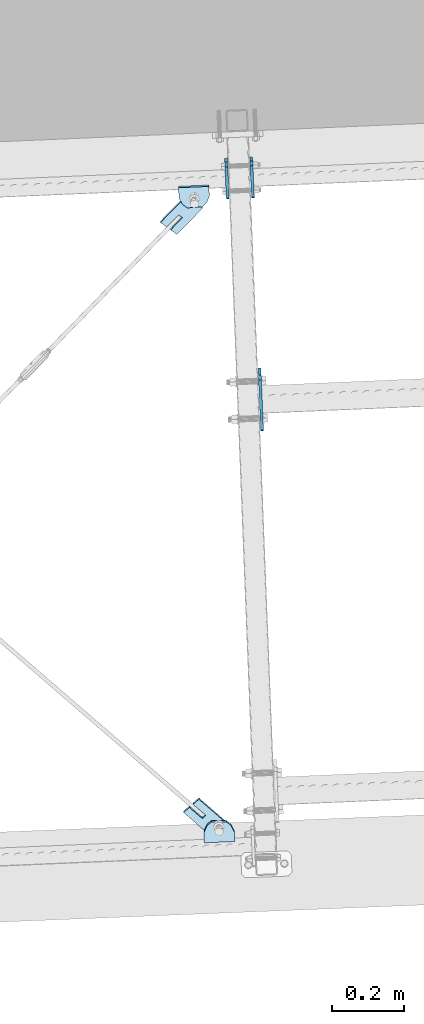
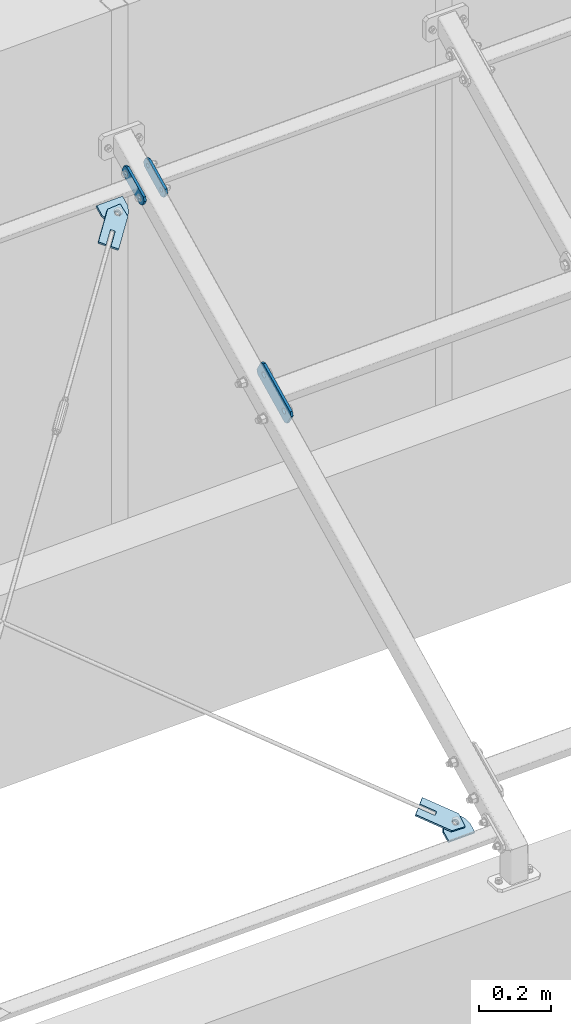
# One storey, part 65 of 288: 7 plates, 34 openings.
"""IFC2X3 building model written with IfcOpenShell, lengths in millimetres."""

import ifcopenshell
import ifcopenshell.guid

model = None  # the IFC model being written
_history = None  # IfcOwnerHistory: only IFC2X3 demands one
_inside = {}  # id of a spatial element -> (the spatial element, [elements in it])
_under = {}  # id of a project, library or spatial element -> (it, [spatial elements below it])
_declared = {}  # id of a project -> (the project, [libraries it declares])
_typed = {}  # id of a type object -> (the type object, [elements of that type])
_made_of = {}  # id of a material, layer set ... -> (it, [elements and type objects made of it])


def new_model(schema):
    """Start an empty IFC model of exactly this schema.

    Asked for "IFC4X3", IfcOpenShell would pick the latest addendum, in which some entities
    have other attributes; the version numbers below select the first issue.
    IFC2X3 requires an IfcOwnerHistory on every rooted entity: one is made here for all.
    """
    global model, _history
    if schema == "IFC4X3":
        model = ifcopenshell.file(schema_version=(4, 3, 0, 0))
    else:
        model = ifcopenshell.file(schema=schema)
    _inside.clear()
    _under.clear()
    _declared.clear()
    _typed.clear()
    _made_of.clear()
    _history = None
    if model.schema == "IFC2X3":
        org = make("IfcOrganization", Name="unknown")
        user = make(
            "IfcPersonAndOrganization",
            ThePerson=make("IfcPerson", FamilyName="unknown"),
            TheOrganization=org,
        )
        app = make(
            "IfcApplication",
            ApplicationDeveloper=org,
            Version="unknown",
            ApplicationFullName="unknown",
            ApplicationIdentifier="unknown",
        )
        _history = make(
            "IfcOwnerHistory",
            OwningUser=user,
            OwningApplication=app,
            ChangeAction="ADDED",
            CreationDate=0,
        )
    return model


def make(cls, **values):
    """One entity of the class cls with the attributes given. An attribute that is None is left unset."""
    return model.create_entity(
        cls, **{name: value for name, value in values.items() if value is not None}
    )


def entity(cls, *values):
    """Any entity or typed value of the class cls, its attributes in the order of the schema. None: left unset."""
    e = model.create_entity(cls)
    for i, value in enumerate(values):
        if value is not None:
            e[i] = value
    return e


def rooted(cls, **values):
    """An entity with a GlobalId (a new one), such as an element, a storey or a relation."""
    return make(cls, GlobalId=ifcopenshell.guid.new(), OwnerHistory=_history, **values)


def si_unit(unit_type, name, prefix=None):
    """IfcSIUnit, for example si_unit("LENGTHUNIT", "METRE", prefix="MILLI")."""
    return make("IfcSIUnit", UnitType=unit_type, Prefix=prefix, Name=name)


def converted_unit(unit_type, name, factor, base, dimensions=None, offset=None):
    """IfcConversionBasedUnit, such as the inch: factor (a typed value) times the base unit."""
    return make(
        "IfcConversionBasedUnit"
        if offset is None
        else "IfcConversionBasedUnitWithOffset",
        ConversionOffset=offset,
        Dimensions=None
        if dimensions is None
        else entity("IfcDimensionalExponents", *dimensions),
        UnitType=unit_type,
        Name=name,
        ConversionFactor=make(
            "IfcMeasureWithUnit", ValueComponent=factor, UnitComponent=base
        ),
    )


def assignment(units):
    """IfcUnitAssignment: the units of a project."""
    return None if units is None else make("IfcUnitAssignment", Units=units)


def point(xyz):
    """IfcCartesianPoint."""
    return None if xyz is None else make("IfcCartesianPoint", Coordinates=xyz)


def direction(xyz):
    """IfcDirection."""
    return None if xyz is None else make("IfcDirection", DirectionRatios=xyz)


def frame(location, z_axis=None, x_axis=None):
    """IfcAxis2Placement3D, a coordinate frame: its origin and axes. An axis left out is left unset."""
    return make(
        "IfcAxis2Placement3D",
        Location=point(location),
        Axis=direction(z_axis),
        RefDirection=direction(x_axis),
    )


def frame_2d(location, x_axis=None):
    """IfcAxis2Placement2D, a coordinate frame in the plane: its origin and x axis."""
    return make(
        "IfcAxis2Placement2D", Location=point(location), RefDirection=direction(x_axis)
    )


def origin():
    """The frame at (0, 0, 0) with its axes left unset."""
    return frame((0.0, 0.0, 0.0))


def origin_with_axes():
    """The frame at (0, 0, 0) with the z axis (0, 0, 1) and the x axis (1, 0, 0) written out."""
    return frame((0.0, 0.0, 0.0), z_axis=(0.0, 0.0, 1.0), x_axis=(1.0, 0.0, 0.0))


def origin_2d_with_axis():
    """The frame at (0, 0) in the plane with the x axis (1, 0) written out."""
    return frame_2d((0.0, 0.0), x_axis=(1.0, 0.0))


def place(relative_to, where):
    """IfcLocalPlacement: puts the frame where relative to a parent placement (None: the world)."""
    return make(
        "IfcLocalPlacement", PlacementRelTo=relative_to, RelativePlacement=where
    )


def context(
    kind, dimensions, precision=None, world=None, true_north=None, identifier=None
):
    """IfcGeometricRepresentationContext, for example the 3D "Model" context."""
    return make(
        "IfcGeometricRepresentationContext",
        ContextIdentifier=identifier,
        ContextType=kind,
        CoordinateSpaceDimension=dimensions,
        Precision=precision,
        WorldCoordinateSystem=world,
        TrueNorth=true_north,
    )


def project(units=None, contexts=None):
    """IfcProject with its units and contexts."""
    return rooted(
        "IfcProject",
        Name="project",
        RepresentationContexts=contexts,
        UnitsInContext=assignment(units),
    )


def spatial(cls, under=None, at=None, **own):
    """A site, building, storey or space (cls), placed at a placement, below another one or the project."""
    s = rooted(cls, ObjectPlacement=at, **own)
    if under is not None:
        _under.setdefault(under.id(), (under, []))[1].append(s)
    return s


def polyline(points):
    """IfcPolyline through the points."""
    return make("IfcPolyline", Points=[point(p) for p in points])


def circle_curve(where, radius):
    """IfcCircle in the frame where."""
    return make("IfcCircle", Position=where, Radius=radius)


def line_curve(start, along, magnitude):
    """IfcLine from a point along a vector."""
    return make(
        "IfcLine",
        Pnt=point(start),
        Dir=make("IfcVector", Orientation=direction(along), Magnitude=magnitude),
    )


def trimmed(basis, trim1, trim2, sense, master):
    """IfcTrimmedCurve: the piece of a basis curve between two trims."""
    return make(
        "IfcTrimmedCurve",
        BasisCurve=basis,
        Trim1=trim1,
        Trim2=trim2,
        SenseAgreement=sense,
        MasterRepresentation=master,
    )


def segment(curve, same_sense, transition):
    """IfcCompositeCurveSegment."""
    return make(
        "IfcCompositeCurveSegment",
        Transition=transition,
        SameSense=same_sense,
        ParentCurve=curve,
    )


def composite_curve(segments, self_intersect=None):
    """IfcCompositeCurve: segments joined end to end."""
    return make("IfcCompositeCurve", Segments=segments, SelfIntersect=self_intersect)


def profile(cls, at=None, kind="AREA", **sizes):
    """A parametric profile (cls). Its sizes go by their IFC names, for example OverallWidth=200.0."""
    return make(cls, ProfileType=kind, Position=at, **sizes)


def circle(**sizes):
    """IfcCircleProfileDef."""
    return profile("IfcCircleProfileDef", **sizes)


def outline(outer, holes=None, kind="AREA"):
    """IfcArbitraryClosedProfileDef: a profile drawn as a closed curve; with holes, ...WithVoids."""
    if holes is None:
        return make("IfcArbitraryClosedProfileDef", ProfileType=kind, OuterCurve=outer)
    return make(
        "IfcArbitraryProfileDefWithVoids",
        ProfileType=kind,
        OuterCurve=outer,
        InnerCurves=holes,
    )


def extrude(swept, where, along, depth):
    """IfcExtrudedAreaSolid: the profile swept, set in the frame where, extruded along a direction by depth."""
    return make(
        "IfcExtrudedAreaSolid",
        SweptArea=swept,
        Position=where,
        ExtrudedDirection=direction(along),
        Depth=depth,
    )


def shape(context_of_items, identifier, shape_type, items):
    """IfcShapeRepresentation: the items that make up one representation, for example the "Body"."""
    return make(
        "IfcShapeRepresentation",
        ContextOfItems=context_of_items,
        RepresentationIdentifier=identifier,
        RepresentationType=shape_type,
        Items=items,
    )


def material(Name=None, Category=None):
    """IfcMaterial."""
    return make("IfcMaterial", Name=Name, Category=Category)


def layer(
    of_material, thickness, ventilated=None, Name=None, Category=None, Priority=None
):
    """IfcMaterialLayer: one layer of a wall or slab, of a material (None: an air gap)."""
    return make(
        "IfcMaterialLayer",
        Material=of_material,
        LayerThickness=thickness,
        IsVentilated=ventilated,
        Name=Name,
        Category=Category,
        Priority=Priority,
    )


def layer_set(layers, Name=None):
    """IfcMaterialLayerSet."""
    return make("IfcMaterialLayerSet", MaterialLayers=layers, LayerSetName=Name)


def made_of(thing, what):
    """Note that an element or type object is made of a material, layer set ...; save() writes the relation."""
    if what is not None:
        _made_of.setdefault(what.id(), (what, []))[1].append(thing)
    return thing


def element(
    cls,
    number,
    at=None,
    inside=None,
    cuts=None,
    type_object=None,
    material=None,
    context=None,
    identifier="Body",
    shape_type=None,
    held_by="IfcProductDefinitionShape",
    body=None,
    shapes=None,
    **own,
):
    """One element of the class cls, such as IfcWall. Its Tag is "e" and its number.

    at: its placement. inside: the storey or other place that contains it. cuts: it is an
    opening in that element (IfcRelVoidsElement). A single representation is given by context,
    identifier, shape_type and body (its items); several are given by shapes. held_by: the class
    of the entity that holds the representations. save() writes the other relations.
    """
    e = rooted(cls, Tag="e%d" % number, ObjectPlacement=at, **own)
    if body is not None:
        shapes = [shape(context, identifier, shape_type, body)]
    if shapes is not None:
        e.Representation = make(held_by, Representations=shapes)
    if inside is not None:
        _inside.setdefault(inside.id(), (inside, []))[1].append(e)
    if cuts is not None:
        rooted(
            "IfcRelVoidsElement", RelatingBuildingElement=cuts, RelatedOpeningElement=e
        )
    if type_object is not None:
        _typed.setdefault(type_object.id(), (type_object, []))[1].append(e)
    return made_of(e, material)


def aggregate(whole, parts):
    """IfcRelAggregates: a whole, such as a stair, and the parts it consists of."""
    return rooted("IfcRelAggregates", RelatingObject=whole, RelatedObjects=parts)


def save(model, path):
    """Write the relations noted so far, then the file.

    IfcRelAggregates (storeys below a building ...), IfcRelContainedInSpatialStructure (elements
    in a storey), IfcRelDefinesByType, IfcRelAssociatesMaterial and IfcRelDeclares: one each for
    every whole, place, type object, material and project.
    """
    for whole, parts in _under.values():
        aggregate(whole, parts)
    for where, things in _inside.values():
        rooted(
            "IfcRelContainedInSpatialStructure",
            RelatedElements=things,
            RelatingStructure=where,
        )
    for kind, things in _typed.values():
        rooted("IfcRelDefinesByType", RelatedObjects=things, RelatingType=kind)
    for what, things in _made_of.values():
        rooted("IfcRelAssociatesMaterial", RelatedObjects=things, RelatingMaterial=what)
    for by, libraries in _declared.values():
        rooted("IfcRelDeclares", RelatingContext=by, RelatedDefinitions=libraries)
    model.write(path)


model = new_model("IFC2X3")

# Units and contexts
model_context = context("Model", 3, precision=1e-09, world=origin_with_axes())
ifc_project = project(units=[si_unit("LENGTHUNIT", "METRE", prefix="MILLI"), si_unit("AREAUNIT", "SQUARE_METRE"), si_unit("VOLUMEUNIT", "CUBIC_METRE"), converted_unit("PLANEANGLEUNIT", "DEGREE", entity("IfcPlaneAngleMeasure", 0.01745329), si_unit("PLANEANGLEUNIT", "RADIAN"), dimensions=[0, 0, 0, 0, 0, 0, 0])], contexts=[model_context])

# Site, building, storey
site_placement = place(None, origin_with_axes())
site = spatial("IfcSite", under=ifc_project, at=site_placement, Name="Remont ?wietlik?w nad MC w NCPP w Opolu", CompositionType="ELEMENT")
building_placement = place(site_placement, origin_with_axes())
building = spatial("IfcBuilding", under=site, at=building_placement, Name="Konstrukcja 1", CompositionType="ELEMENT")
storey_placement = place(building_placement, origin_with_axes())
storey = spatial("IfcBuildingStorey", under=building, at=storey_placement, Name="Default Storey", CompositionType="ELEMENT", Elevation=0.0)

# Plate, openings
ifc_material = material(Name="S235")
ifc_layer = layer(ifc_material, 8.0)
ifc_layer_set = layer_set([ifc_layer], Name="S235")
plate_1_placement = place(None, frame((8741.90455079, 15756.596347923, 1174.632161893), z_axis=(-0.999102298, -0.042361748, 0.000284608), x_axis=(0.021561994, -0.502733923, 0.864172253)))
plate_1 = element("IfcPlate", 1, at=plate_1_placement, inside=storey, material=ifc_layer_set, Name="-", ObjectType="-", context=model_context, shape_type="SweptSolid", body=[
    extrude(outline(polyline([(0.0, 0.0), (40.0, 0.0), (40.0, 120.0), (0.0, 120.0), (0.0, 0.0)])), origin_with_axes(), (0.0, 0.0, 1.0), 8.0),
])
opening_1_placement = place(plate_1_placement, frame((0.0, 0.0, -0.01), z_axis=(0.0, 0.0, 1.0), x_axis=(1.0, 0.0, 0.0)))
element("IfcOpeningElement", 2, at=opening_1_placement, cuts=plate_1, ObjectType="Opening", context=model_context, shape_type="SweptSolid", body=[
    extrude(outline(composite_curve([segment(trimmed(line_curve((0.0, 0.0), (1.0, 0.0), 10.0), [point((0.0, 0.0))], [point((10.0, 0.0))], True, "CARTESIAN"), True, "CONTINUOUS"), segment(trimmed(circle_curve(frame_2d((10.0, 10.0), x_axis=(-1.0, 0.0)), 10.0), [point((10.0, 0.0))], [point((0.0, 10.0))], False, "CARTESIAN"), True, "CONTINUOUS"), segment(trimmed(line_curve((0.0, 10.0), (0.0, -1.0), 10.0), [point((0.0, 10.0))], [point((0.0, 0.0))], True, "CARTESIAN"), True, "CONTINUOUS")], self_intersect=False)), origin(), (0.0, 0.0, 1.0), 8.02),
])
opening_2_placement = place(plate_1_placement, frame((0.0, 0.0, -0.01), z_axis=(0.0, 0.0, 1.0), x_axis=(1.0, 0.0, 0.0)))
element("IfcOpeningElement", 3, at=opening_2_placement, cuts=plate_1, ObjectType="Opening", context=model_context, shape_type="SweptSolid", body=[
    extrude(outline(composite_curve([segment(trimmed(line_curve((40.0, 0.0), (0.0, 1.0), 10.0), [point((40.0, 0.0))], [point((40.0, 10.0))], True, "CARTESIAN"), True, "CONTINUOUS"), segment(trimmed(circle_curve(frame_2d((30.0, 10.0), x_axis=(-1.0, 0.0)), 10.0), [point((40.0, 10.0))], [point((30.0, 0.0))], False, "CARTESIAN"), True, "CONTINUOUS"), segment(trimmed(line_curve((30.0, 0.0), (1.0, 0.0), 10.0), [point((30.0, 0.0))], [point((40.0, 0.0))], True, "CARTESIAN"), True, "CONTINUOUS")], self_intersect=False)), origin(), (0.0, 0.0, 1.0), 8.02),
])
opening_3_placement = place(plate_1_placement, frame((0.0, 0.0, -0.01), z_axis=(0.0, 0.0, 1.0), x_axis=(1.0, 0.0, 0.0)))
element("IfcOpeningElement", 4, at=opening_3_placement, cuts=plate_1, ObjectType="Opening", context=model_context, shape_type="SweptSolid", body=[
    extrude(outline(composite_curve([segment(trimmed(line_curve((40.0, 120.0), (-1.0, 0.0), 10.0), [point((40.0, 120.0))], [point((30.0, 120.0))], True, "CARTESIAN"), True, "CONTINUOUS"), segment(trimmed(circle_curve(frame_2d((30.0, 110.0), x_axis=(-1.0, 0.0)), 10.0), [point((30.0, 120.0))], [point((40.0, 110.0))], False, "CARTESIAN"), True, "CONTINUOUS"), segment(trimmed(line_curve((40.0, 110.0), (0.0, 1.0), 10.0), [point((40.0, 110.0))], [point((40.0, 120.0))], True, "CARTESIAN"), True, "CONTINUOUS")], self_intersect=False)), origin(), (0.0, 0.0, 1.0), 8.02),
])
opening_4_placement = place(plate_1_placement, frame((0.0, 0.0, -0.01), z_axis=(0.0, 0.0, 1.0), x_axis=(1.0, 0.0, 0.0)))
element("IfcOpeningElement", 5, at=opening_4_placement, cuts=plate_1, ObjectType="Opening", context=model_context, shape_type="SweptSolid", body=[
    extrude(outline(composite_curve([segment(trimmed(line_curve((0.0, 120.0), (0.0, -1.0), 10.0), [point((0.0, 120.0))], [point((0.0, 110.0))], True, "CARTESIAN"), True, "CONTINUOUS"), segment(trimmed(circle_curve(frame_2d((10.0, 110.0), x_axis=(-1.0, 0.0)), 10.0), [point((0.0, 110.0))], [point((10.0, 120.0))], False, "CARTESIAN"), True, "CONTINUOUS"), segment(trimmed(line_curve((10.0, 120.0), (-1.0, 0.0), 10.0), [point((10.0, 120.0))], [point((0.0, 120.0))], True, "CARTESIAN"), True, "CONTINUOUS")], self_intersect=False)), origin(), (0.0, 0.0, 1.0), 8.02),
])
opening_5_placement = place(plate_1_placement, frame((20.0, 60.0, -0.5), z_axis=(0.0, 0.0, 1.0), x_axis=(1.0, 0.0, 0.0)))
element("IfcOpeningElement", 6, at=opening_5_placement, cuts=plate_1, ObjectType="Opening", context=model_context, shape_type="SweptSolid", body=[
    extrude(circle(Radius=7.001, at=frame_2d((0.0, 40.0), x_axis=(1.0, 0.0))), origin(), (0.0, 0.0, 1.0), 9.0),
])
opening_6_placement = place(plate_1_placement, frame((20.0, 60.0, -0.5), z_axis=(0.0, 0.0, 1.0), x_axis=(1.0, 0.0, 0.0)))
element("IfcOpeningElement", 7, at=opening_6_placement, cuts=plate_1, ObjectType="Opening", context=model_context, shape_type="SweptSolid", body=[
    extrude(circle(Radius=7.001, at=frame_2d((0.0, -40.0), x_axis=(1.0, 0.0))), origin(), (0.0, 0.0, 1.0), 9.0),
])

plate_2_placement = place(None, frame((8671.967389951, 15753.631025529, 1174.65208444), z_axis=(-0.999102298, -0.042361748, 0.000284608), x_axis=(0.021561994, -0.502733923, 0.864172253)))
plate_2 = element("IfcPlate", 8, at=plate_2_placement, inside=storey, material=ifc_layer_set, Name="-", ObjectType="-", context=model_context, shape_type="SweptSolid", body=[
    extrude(outline(polyline([(0.0, 0.0), (40.0, 0.0), (40.0, 120.0), (0.0, 120.0), (0.0, 0.0)])), origin_with_axes(), (0.0, 0.0, 1.0), 8.0),
])
opening_7_placement = place(plate_2_placement, frame((0.0, 0.0, -0.01), z_axis=(0.0, 0.0, 1.0), x_axis=(1.0, 0.0, 0.0)))
element("IfcOpeningElement", 9, at=opening_7_placement, cuts=plate_2, ObjectType="Opening", context=model_context, shape_type="SweptSolid", body=[
    extrude(outline(composite_curve([segment(trimmed(line_curve((40.0, 0.0), (0.0, 1.0), 10.0), [point((40.0, 0.0))], [point((40.0, 10.0))], True, "CARTESIAN"), True, "CONTINUOUS"), segment(trimmed(circle_curve(frame_2d((30.0, 10.0), x_axis=(-1.0, 0.0)), 10.0), [point((40.0, 10.0))], [point((30.0, 0.0))], False, "CARTESIAN"), True, "CONTINUOUS"), segment(trimmed(line_curve((30.0, 0.0), (1.0, 0.0), 10.0), [point((30.0, 0.0))], [point((40.0, 0.0))], True, "CARTESIAN"), True, "CONTINUOUS")], self_intersect=False)), origin(), (0.0, 0.0, 1.0), 8.02),
])
opening_8_placement = place(plate_2_placement, frame((0.0, 0.0, -0.01), z_axis=(0.0, 0.0, 1.0), x_axis=(1.0, 0.0, 0.0)))
element("IfcOpeningElement", 10, at=opening_8_placement, cuts=plate_2, ObjectType="Opening", context=model_context, shape_type="SweptSolid", body=[
    extrude(outline(composite_curve([segment(trimmed(line_curve((0.0, 0.0), (1.0, 0.0), 10.0), [point((0.0, 0.0))], [point((10.0, 0.0))], True, "CARTESIAN"), True, "CONTINUOUS"), segment(trimmed(circle_curve(frame_2d((10.0, 10.0), x_axis=(-1.0, 0.0)), 10.0), [point((10.0, 0.0))], [point((0.0, 10.0))], False, "CARTESIAN"), True, "CONTINUOUS"), segment(trimmed(line_curve((0.0, 10.0), (0.0, -1.0), 10.0), [point((0.0, 10.0))], [point((0.0, 0.0))], True, "CARTESIAN"), True, "CONTINUOUS")], self_intersect=False)), origin(), (0.0, 0.0, 1.0), 8.02),
])
opening_9_placement = place(plate_2_placement, frame((0.0, 0.0, -0.01), z_axis=(0.0, 0.0, 1.0), x_axis=(1.0, 0.0, 0.0)))
element("IfcOpeningElement", 11, at=opening_9_placement, cuts=plate_2, ObjectType="Opening", context=model_context, shape_type="SweptSolid", body=[
    extrude(outline(composite_curve([segment(trimmed(line_curve((40.0, 120.0), (-1.0, 0.0), 10.0), [point((40.0, 120.0))], [point((30.0, 120.0))], True, "CARTESIAN"), True, "CONTINUOUS"), segment(trimmed(circle_curve(frame_2d((30.0, 110.0), x_axis=(-1.0, 0.0)), 10.0), [point((30.0, 120.0))], [point((40.0, 110.0))], False, "CARTESIAN"), True, "CONTINUOUS"), segment(trimmed(line_curve((40.0, 110.0), (0.0, 1.0), 10.0), [point((40.0, 110.0))], [point((40.0, 120.0))], True, "CARTESIAN"), True, "CONTINUOUS")], self_intersect=False)), origin(), (0.0, 0.0, 1.0), 8.02),
])
opening_10_placement = place(plate_2_placement, frame((0.0, 0.0, -0.01), z_axis=(0.0, 0.0, 1.0), x_axis=(1.0, 0.0, 0.0)))
element("IfcOpeningElement", 12, at=opening_10_placement, cuts=plate_2, ObjectType="Opening", context=model_context, shape_type="SweptSolid", body=[
    extrude(outline(composite_curve([segment(trimmed(line_curve((0.0, 120.0), (0.0, -1.0), 10.0), [point((0.0, 120.0))], [point((0.0, 110.0))], True, "CARTESIAN"), True, "CONTINUOUS"), segment(trimmed(circle_curve(frame_2d((10.0, 110.0), x_axis=(-1.0, 0.0)), 10.0), [point((0.0, 110.0))], [point((10.0, 120.0))], False, "CARTESIAN"), True, "CONTINUOUS"), segment(trimmed(line_curve((10.0, 120.0), (-1.0, 0.0), 10.0), [point((10.0, 120.0))], [point((0.0, 120.0))], True, "CARTESIAN"), True, "CONTINUOUS")], self_intersect=False)), origin(), (0.0, 0.0, 1.0), 8.02),
])
opening_11_placement = place(plate_2_placement, frame((20.0, 60.0, -0.5), z_axis=(0.0, 0.0, 1.0), x_axis=(1.0, 0.0, 0.0)))
element("IfcOpeningElement", 13, at=opening_11_placement, cuts=plate_2, ObjectType="Opening", context=model_context, shape_type="SweptSolid", body=[
    extrude(circle(Radius=7.001, at=frame_2d((0.0, 40.0), x_axis=(1.0, 0.0))), origin(), (0.0, 0.0, 1.0), 9.0),
])
opening_12_placement = place(plate_2_placement, frame((20.0, 60.0, -0.5), z_axis=(0.0, 0.0, 1.0), x_axis=(1.0, 0.0, 0.0)))
element("IfcOpeningElement", 14, at=opening_12_placement, cuts=plate_2, ObjectType="Opening", context=model_context, shape_type="SweptSolid", body=[
    extrude(circle(Radius=7.001, at=frame_2d((0.0, -40.0), x_axis=(1.0, 0.0))), origin(), (0.0, 0.0, 1.0), 9.0),
])

plate_3_placement = place(None, frame((8767.016468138, 15119.179195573, 791.611498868), z_axis=(-0.999102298, -0.042361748, 0.000284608), x_axis=(0.021561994, -0.502733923, 0.864172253)))
plate_3 = element("IfcPlate", 15, at=plate_3_placement, inside=storey, material=ifc_layer_set, Name="-", ObjectType="-", context=model_context, shape_type="SweptSolid", body=[
    extrude(outline(polyline([(0.0, 0.0), (60.0, 0.0), (60.0, 180.0), (0.0, 180.0), (0.0, 0.0)])), origin_with_axes(), (0.0, 0.0, 1.0), 8.0),
])
opening_13_placement = place(plate_3_placement, frame((0.0, 0.0, -0.01), z_axis=(0.0, 0.0, 1.0), x_axis=(1.0, 0.0, 0.0)))
element("IfcOpeningElement", 16, at=opening_13_placement, cuts=plate_3, ObjectType="Opening", context=model_context, shape_type="SweptSolid", body=[
    extrude(outline(composite_curve([segment(trimmed(line_curve((60.0, 0.0), (0.0, 1.0), 10.0), [point((60.0, 0.0))], [point((60.0, 10.0))], True, "CARTESIAN"), True, "CONTINUOUS"), segment(trimmed(circle_curve(frame_2d((50.0, 10.0), x_axis=(-1.0, 0.0)), 10.0), [point((60.0, 10.0))], [point((50.0, 0.0))], False, "CARTESIAN"), True, "CONTINUOUS"), segment(trimmed(line_curve((50.0, 0.0), (1.0, 0.0), 10.0), [point((50.0, 0.0))], [point((60.0, 0.0))], True, "CARTESIAN"), True, "CONTINUOUS")], self_intersect=False)), origin(), (0.0, 0.0, 1.0), 8.02),
])
opening_14_placement = place(plate_3_placement, frame((0.0, 0.0, -0.01), z_axis=(0.0, 0.0, 1.0), x_axis=(1.0, 0.0, 0.0)))
element("IfcOpeningElement", 17, at=opening_14_placement, cuts=plate_3, ObjectType="Opening", context=model_context, shape_type="SweptSolid", body=[
    extrude(outline(composite_curve([segment(trimmed(line_curve((0.0, 0.0), (1.0, 0.0), 10.0), [point((0.0, 0.0))], [point((10.0, 0.0))], True, "CARTESIAN"), True, "CONTINUOUS"), segment(trimmed(circle_curve(frame_2d((10.0, 10.0), x_axis=(-1.0, 0.0)), 10.0), [point((10.0, 0.0))], [point((0.0, 10.0))], False, "CARTESIAN"), True, "CONTINUOUS"), segment(trimmed(line_curve((0.0, 10.0), (0.0, -1.0), 10.0), [point((0.0, 10.0))], [point((0.0, 0.0))], True, "CARTESIAN"), True, "CONTINUOUS")], self_intersect=False)), origin(), (0.0, 0.0, 1.0), 8.02),
])
opening_15_placement = place(plate_3_placement, frame((0.0, 0.0, -0.01), z_axis=(0.0, 0.0, 1.0), x_axis=(1.0, 0.0, 0.0)))
element("IfcOpeningElement", 18, at=opening_15_placement, cuts=plate_3, ObjectType="Opening", context=model_context, shape_type="SweptSolid", body=[
    extrude(outline(composite_curve([segment(trimmed(line_curve((60.0, 180.0), (-1.0, 0.0), 10.0), [point((60.0, 180.0))], [point((50.0, 180.0))], True, "CARTESIAN"), True, "CONTINUOUS"), segment(trimmed(circle_curve(frame_2d((50.0, 170.0), x_axis=(-1.0, 0.0)), 10.0), [point((50.0, 180.0))], [point((60.0, 170.0))], False, "CARTESIAN"), True, "CONTINUOUS"), segment(trimmed(line_curve((60.0, 170.0), (0.0, 1.0), 10.0), [point((60.0, 170.0))], [point((60.0, 180.0))], True, "CARTESIAN"), True, "CONTINUOUS")], self_intersect=False)), origin(), (0.0, 0.0, 1.0), 8.02),
])
opening_16_placement = place(plate_3_placement, frame((0.0, 0.0, -0.01), z_axis=(0.0, 0.0, 1.0), x_axis=(1.0, 0.0, 0.0)))
element("IfcOpeningElement", 19, at=opening_16_placement, cuts=plate_3, ObjectType="Opening", context=model_context, shape_type="SweptSolid", body=[
    extrude(outline(composite_curve([segment(trimmed(line_curve((0.0, 180.0), (0.0, -1.0), 10.0), [point((0.0, 180.0))], [point((0.0, 170.0))], True, "CARTESIAN"), True, "CONTINUOUS"), segment(trimmed(circle_curve(frame_2d((10.0, 170.0), x_axis=(-1.0, 0.0)), 10.0), [point((0.0, 170.0))], [point((10.0, 180.0))], False, "CARTESIAN"), True, "CONTINUOUS"), segment(trimmed(line_curve((10.0, 180.0), (-1.0, 0.0), 10.0), [point((10.0, 180.0))], [point((0.0, 180.0))], True, "CARTESIAN"), True, "CONTINUOUS")], self_intersect=False)), origin(), (0.0, 0.0, 1.0), 8.02),
])
opening_17_placement = place(plate_3_placement, frame((20.999, 150.0, 8.5), z_axis=(0.0, 0.0, 1.0), x_axis=(1.0, 0.0, 0.0)))
element("IfcOpeningElement", 20, at=opening_17_placement, cuts=plate_3, ObjectType="Opening", context=model_context, shape_type="SweptSolid", body=[
    extrude(circle(Radius=9.001, at=frame_2d((9.001, 0.0), x_axis=(1.0, 0.0))), origin(), (0.0, 0.0, -1.0), 9.0),
])
opening_18_placement = place(plate_3_placement, frame((20.999, 30.0, 8.5), z_axis=(0.0, 0.0, 1.0), x_axis=(1.0, 0.0, 0.0)))
element("IfcOpeningElement", 21, at=opening_18_placement, cuts=plate_3, ObjectType="Opening", context=model_context, shape_type="SweptSolid", body=[
    extrude(circle(Radius=9.001, at=frame_2d((9.001, 0.0), x_axis=(1.0, 0.0))), origin(), (0.0, 0.0, -1.0), 9.0),
])

plate_4_placement = place(None, frame((8588.238413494, 14075.005256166, 225.89587988), z_axis=(0.021594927, -0.503513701, 0.863717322), x_axis=(-0.711151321, -0.614959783, -0.340717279)))
plate_4 = element("IfcPlate", 22, at=plate_4_placement, inside=storey, material=ifc_layer_set, Name="Tab_Plate#2", ObjectType="Tab_Plate#2", context=model_context, shape_type="SweptSolid", body=[
    extrude(outline(polyline([(0.0, 0.0), (60.0, 0.0), (60.0, 140.0), (0.0, 140.0), (0.0, 0.0)])), origin_with_axes(), (0.0, 0.0, 1.0), 8.0),
])
opening_19_placement = place(plate_4_placement, frame((0.0, 0.0, -0.01), z_axis=(0.0, 0.0, 1.0), x_axis=(1.0, 0.0, 0.0)))
element("IfcOpeningElement", 23, at=opening_19_placement, cuts=plate_4, ObjectType="Opening", context=model_context, shape_type="SweptSolid", body=[
    extrude(outline(composite_curve([segment(trimmed(line_curve((60.0, 140.0), (-1.0, 0.0), 30.0), [point((60.0, 140.0))], [point((30.0, 140.0))], True, "CARTESIAN"), True, "CONTINUOUS"), segment(trimmed(circle_curve(frame_2d((30.0, 110.0), x_axis=(-1.0, 0.0)), 30.0), [point((30.0, 140.0))], [point((60.0, 110.0))], False, "CARTESIAN"), True, "CONTINUOUS"), segment(trimmed(line_curve((60.0, 110.0), (0.0, 1.0), 30.0), [point((60.0, 110.0))], [point((60.0, 140.0))], True, "CARTESIAN"), True, "CONTINUOUS")], self_intersect=False)), origin(), (0.0, 0.0, 1.0), 8.02),
])
opening_20_placement = place(plate_4_placement, frame((0.0, 0.0, -0.01), z_axis=(0.0, 0.0, 1.0), x_axis=(1.0, 0.0, 0.0)))
element("IfcOpeningElement", 24, at=opening_20_placement, cuts=plate_4, ObjectType="Opening", context=model_context, shape_type="SweptSolid", body=[
    extrude(outline(composite_curve([segment(trimmed(line_curve((0.0, 140.0), (0.0, -1.0), 30.0), [point((0.0, 140.0))], [point((0.0, 110.0))], True, "CARTESIAN"), True, "CONTINUOUS"), segment(trimmed(circle_curve(frame_2d((30.0, 110.0), x_axis=(-1.0, 0.0)), 30.0), [point((0.0, 110.0))], [point((30.0, 140.0))], False, "CARTESIAN"), True, "CONTINUOUS"), segment(trimmed(line_curve((30.0, 140.0), (-1.0, 0.0), 30.0), [point((30.0, 140.0))], [point((0.0, 140.0))], True, "CARTESIAN"), True, "CONTINUOUS")], self_intersect=False)), origin(), (0.0, 0.0, 1.0), 8.02),
])
opening_21_placement = place(plate_4_placement, frame((0.0, 0.0, 8.1), z_axis=(0.0, 0.0, -1.0), x_axis=(0.736848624, -0.676057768, 0.0)))
element("IfcOpeningElement", 25, at=opening_21_placement, cuts=plate_4, ObjectType="Opening", context=model_context, shape_type="SweptSolid", body=[
    extrude(outline(polyline([(-17.532840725, -53.128669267), (-7.215486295, -62.594830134), (27.264811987, -25.014076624), (16.947457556, -15.547915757), (-17.532840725, -53.128669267)])), origin(), (0.0, 0.0, 1.0), 8.2),
])
opening_22_placement = place(plate_4_placement, frame((30.0, 119.001, -0.5), z_axis=(0.0, 0.0, -1.0), x_axis=(-1.0, 0.0, 0.0)))
element("IfcOpeningElement", 26, at=opening_22_placement, cuts=plate_4, ObjectType="Opening", context=model_context, shape_type="SweptSolid", body=[
    extrude(circle(Radius=9.001, at=frame_2d((0.0, -9.001), x_axis=(1.0, 0.0))), origin(), (0.0, 0.0, -1.0), 9.0),
])

plate_5_placement = place(None, frame((8601.785912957, 13989.557593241, 175.744487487), z_axis=(-0.021594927, 0.503513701, -0.863717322), x_axis=(0.711151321, 0.614959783, 0.340717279)))
plate_5 = element("IfcPlate", 27, at=plate_5_placement, inside=storey, material=ifc_layer_set, Name="Gusset#2", ObjectType="Gusset#2", context=model_context, shape_type="SweptSolid", body=[
    extrude(outline(polyline([(0.0, 0.0), (60.0, 0.0), (60.0, 60.0), (31.323039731, 91.22017084), (-31.111979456, 33.871139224), (0.0, 0.0)])), origin_with_axes(), (0.0, 0.0, 1.0), 8.0),
])
opening_23_placement = place(plate_5_placement, frame((30.0, 39.001, 8.5), z_axis=(0.0, 0.0, 1.0), x_axis=(1.0, 0.0, 0.0)))
element("IfcOpeningElement", 28, at=opening_23_placement, cuts=plate_5, ObjectType="Opening", context=model_context, shape_type="SweptSolid", body=[
    extrude(circle(Radius=9.001, at=frame_2d((0.0, -9.001), x_axis=(1.0, 0.0))), origin(), (0.0, 0.0, -1.0), 9.0),
])
opening_24_placement = place(plate_5_placement, frame((0.0, 0.0, -0.01), z_axis=(0.0, 0.0, 1.0), x_axis=(1.0, 0.0, 0.0)))
element("IfcOpeningElement", 29, at=opening_24_placement, cuts=plate_5, ObjectType="Opening", context=model_context, shape_type="SweptSolid", body=[
    extrude(outline(composite_curve([segment(trimmed(line_curve((60.0, 0.0), (0.0, 1.0), 30.0), [point((60.0, 0.0))], [point((60.0, 30.0))], True, "CARTESIAN"), True, "CONTINUOUS"), segment(trimmed(circle_curve(frame_2d((30.0, 30.0), x_axis=(-1.0, 0.0)), 30.0), [point((60.0, 30.0))], [point((30.0, 0.0))], False, "CARTESIAN"), True, "CONTINUOUS"), segment(trimmed(line_curve((30.0, 0.0), (1.0, 0.0), 30.0), [point((30.0, 0.0))], [point((60.0, 0.0))], True, "CARTESIAN"), True, "CONTINUOUS")], self_intersect=False)), origin(), (0.0, 0.0, 1.0), 8.02),
])
opening_25_placement = place(plate_5_placement, frame((0.0, 0.0, -0.01), z_axis=(0.0, 0.0, 1.0), x_axis=(1.0, 0.0, 0.0)))
element("IfcOpeningElement", 30, at=opening_25_placement, cuts=plate_5, ObjectType="Opening", context=model_context, shape_type="SweptSolid", body=[
    extrude(outline(composite_curve([segment(trimmed(line_curve((0.0, 0.0), (1.0, 0.0), 13.178853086), [point((0.0, 0.0))], [point((13.178853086, 0.0))], True, "CARTESIAN"), True, "CONTINUOUS"), segment(trimmed(circle_curve(frame_2d((13.178853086, 30.0), x_axis=(-1.0, 0.0)), 30.0), [point((13.178853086, 0.0))], [point((-8.915148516, 9.705786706))], False, "CARTESIAN"), True, "CONTINUOUS"), segment(trimmed(line_curve((-8.915148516, 9.705786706), (0.676473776, -0.73646672), 13.178853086), [point((-8.915148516, 9.705786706))], [point((0.0, 0.0))], True, "CARTESIAN"), True, "CONTINUOUS")], self_intersect=False)), origin(), (0.0, 0.0, 1.0), 8.02),
])
opening_26_placement = place(plate_5_placement, frame((0.0, 0.0, -0.01), z_axis=(0.0, 0.0, 1.0), x_axis=(1.0, 0.0, 0.0)))
element("IfcOpeningElement", 31, at=opening_26_placement, cuts=plate_5, ObjectType="Opening", context=model_context, shape_type="SweptSolid", body=[
    extrude(outline(composite_curve([segment(trimmed(line_curve((60.0, 60.0), (-0.676473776, 0.73646672), 11.687072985), [point((60.0, 60.0))], [point((52.094001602, 68.607140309))], True, "CARTESIAN"), True, "CONTINUOUS"), segment(trimmed(circle_curve(frame_2d((30.0, 48.312927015), x_axis=(-1.0, 0.0)), 30.0), [point((52.094001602, 68.607140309))], [point((60.0, 48.312927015))], False, "CARTESIAN"), True, "CONTINUOUS"), segment(trimmed(line_curve((60.0, 48.312927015), (0.0, 1.0), 11.687072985), [point((60.0, 48.312927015))], [point((60.0, 60.0))], True, "CARTESIAN"), True, "CONTINUOUS")], self_intersect=False)), origin(), (0.0, 0.0, 1.0), 8.02),
])

plate_6_placement = place(None, frame((8527.357746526, 15640.208571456, 1149.133157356), z_axis=(-0.021594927, 0.503513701, -0.863717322), x_axis=(-0.760459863, 0.552563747, 0.341136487)))
plate_6 = element("IfcPlate", 32, at=plate_6_placement, inside=storey, material=ifc_layer_set, Name="Tab_Plate#1", ObjectType="Tab_Plate#1", context=model_context, shape_type="SweptSolid", body=[
    extrude(outline(polyline([(0.0, 0.0), (60.0, 0.0), (60.0, 140.0), (0.0, 140.0), (0.0, 0.0)])), origin_with_axes(), (0.0, 0.0, 1.0), 8.0),
])
opening_27_placement = place(plate_6_placement, frame((0.0, 0.0, -0.01), z_axis=(0.0, 0.0, 1.0), x_axis=(1.0, 0.0, 0.0)))
element("IfcOpeningElement", 33, at=opening_27_placement, cuts=plate_6, ObjectType="Opening", context=model_context, shape_type="SweptSolid", body=[
    extrude(outline(composite_curve([segment(trimmed(line_curve((60.0, 140.0), (-1.0, 0.0), 30.0), [point((60.0, 140.0))], [point((30.0, 140.0))], True, "CARTESIAN"), True, "CONTINUOUS"), segment(trimmed(circle_curve(frame_2d((30.0, 110.0), x_axis=(-1.0, 0.0)), 30.0), [point((30.0, 140.0))], [point((60.0, 110.0))], False, "CARTESIAN"), True, "CONTINUOUS"), segment(trimmed(line_curve((60.0, 110.0), (0.0, 1.0), 30.0), [point((60.0, 110.0))], [point((60.0, 140.0))], True, "CARTESIAN"), True, "CONTINUOUS")], self_intersect=False)), origin(), (0.0, 0.0, 1.0), 8.02),
])
opening_28_placement = place(plate_6_placement, frame((0.0, 0.0, -0.01), z_axis=(0.0, 0.0, 1.0), x_axis=(1.0, 0.0, 0.0)))
element("IfcOpeningElement", 34, at=opening_28_placement, cuts=plate_6, ObjectType="Opening", context=model_context, shape_type="SweptSolid", body=[
    extrude(outline(composite_curve([segment(trimmed(line_curve((0.0, 140.0), (0.0, -1.0), 30.0), [point((0.0, 140.0))], [point((0.0, 110.0))], True, "CARTESIAN"), True, "CONTINUOUS"), segment(trimmed(circle_curve(frame_2d((30.0, 110.0), x_axis=(-1.0, 0.0)), 30.0), [point((0.0, 110.0))], [point((30.0, 140.0))], False, "CARTESIAN"), True, "CONTINUOUS"), segment(trimmed(line_curve((30.0, 140.0), (-1.0, 0.0), 30.0), [point((30.0, 140.0))], [point((0.0, 140.0))], True, "CARTESIAN"), True, "CONTINUOUS")], self_intersect=False)), origin(), (0.0, 0.0, 1.0), 8.02),
])
opening_29_placement = place(plate_6_placement, frame((0.0, 0.0, 8.1), z_axis=(0.0, 0.0, -1.0), x_axis=(-0.736084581, 0.676889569, 0.0)))
element("IfcOpeningElement", 35, at=opening_29_placement, cuts=plate_6, ObjectType="Opening", context=model_context, shape_type="SweptSolid", body=[
    extrude(outline(polyline([(17.592835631, 53.108832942), (7.286179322, 62.58664069), (-27.236542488, 25.044854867), (-16.929886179, 15.567047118), (17.592835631, 53.108832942)])), origin(), (0.0, 0.0, 1.0), 8.2),
])
opening_30_placement = place(plate_6_placement, frame((30.0, 110.0, 8.5), z_axis=(0.0, 0.0, -1.0), x_axis=(0.0, -1.0, 0.0)))
element("IfcOpeningElement", 36, at=opening_30_placement, cuts=plate_6, ObjectType="Opening", context=model_context, shape_type="SweptSolid", body=[
    extrude(circle(Radius=9.001, at=origin_2d_with_axis()), origin(), (0.0, 0.0, 1.0), 9.0),
])

plate_7_placement = place(None, frame((8533.306697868, 15734.553749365, 1185.459420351), z_axis=(0.021594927, -0.503513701, 0.863717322), x_axis=(0.760459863, -0.552563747, -0.341136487)))
plate_7 = element("IfcPlate", 37, at=plate_7_placement, inside=storey, material=ifc_layer_set, Name="Gusset#1", ObjectType="Gusset#1", context=model_context, shape_type="SweptSolid", body=[
    extrude(outline(polyline([(0.0, 0.0), (60.0, 0.0), (60.0, 60.0), (31.332817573, 91.209525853), (-31.102201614, 33.860494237), (0.0, 0.0)])), origin_with_axes(), (0.0, 0.0, 1.0), 8.0),
])
opening_31_placement = place(plate_7_placement, frame((0.0, 0.0, -0.01), z_axis=(0.0, 0.0, 1.0), x_axis=(1.0, 0.0, 0.0)))
element("IfcOpeningElement", 38, at=opening_31_placement, cuts=plate_7, ObjectType="Opening", context=model_context, shape_type="SweptSolid", body=[
    extrude(outline(composite_curve([segment(trimmed(line_curve((60.0, 0.0), (0.0, 1.0), 30.0), [point((60.0, 0.0))], [point((60.0, 30.0))], True, "CARTESIAN"), True, "CONTINUOUS"), segment(trimmed(circle_curve(frame_2d((30.0, 30.0), x_axis=(-1.0, 0.0)), 30.0), [point((60.0, 30.0))], [point((30.0, 0.0))], False, "CARTESIAN"), True, "CONTINUOUS"), segment(trimmed(line_curve((30.0, 0.0), (1.0, 0.0), 30.0), [point((30.0, 0.0))], [point((60.0, 0.0))], True, "CARTESIAN"), True, "CONTINUOUS")], self_intersect=False)), origin(), (0.0, 0.0, 1.0), 8.02),
])
opening_32_placement = place(plate_7_placement, frame((30.0, 30.0, -0.5), z_axis=(0.0, 0.0, 1.0), x_axis=(0.0, -1.0, 0.0)))
element("IfcOpeningElement", 39, at=opening_32_placement, cuts=plate_7, ObjectType="Opening", context=model_context, shape_type="SweptSolid", body=[
    extrude(circle(Radius=9.001, at=origin_2d_with_axis()), origin(), (0.0, 0.0, 1.0), 9.0),
])
opening_33_placement = place(plate_7_placement, frame((0.0, 0.0, -0.01), z_axis=(0.0, 0.0, 1.0), x_axis=(1.0, 0.0, 0.0)))
element("IfcOpeningElement", 40, at=opening_33_placement, cuts=plate_7, ObjectType="Opening", context=model_context, shape_type="SweptSolid", body=[
    extrude(outline(composite_curve([segment(trimmed(line_curve((0.0, 0.0), (1.0, 0.0), 13.178853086), [point((0.0, 0.0))], [point((13.178853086, 0.0))], True, "CARTESIAN"), True, "CONTINUOUS"), segment(trimmed(circle_curve(frame_2d((13.178853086, 30.0), x_axis=(-1.0, 0.0)), 30.0), [point((13.178853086, 0.0))], [point((-8.915148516, 9.705786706))], False, "CARTESIAN"), True, "CONTINUOUS"), segment(trimmed(line_curve((-8.915148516, 9.705786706), (0.676473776, -0.73646672), 13.178853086), [point((-8.915148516, 9.705786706))], [point((0.0, 0.0))], True, "CARTESIAN"), True, "CONTINUOUS")], self_intersect=False)), origin(), (0.0, 0.0, 1.0), 8.02),
])
opening_34_placement = place(plate_7_placement, frame((0.0, 0.0, -0.01), z_axis=(0.0, 0.0, 1.0), x_axis=(1.0, 0.0, 0.0)))
element("IfcOpeningElement", 41, at=opening_34_placement, cuts=plate_7, ObjectType="Opening", context=model_context, shape_type="SweptSolid", body=[
    extrude(outline(composite_curve([segment(trimmed(line_curve((60.0, 60.0), (-0.676473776, 0.73646672), 11.687072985), [point((60.0, 60.0))], [point((52.094001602, 68.607140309))], True, "CARTESIAN"), True, "CONTINUOUS"), segment(trimmed(circle_curve(frame_2d((30.0, 48.312927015), x_axis=(-1.0, 0.0)), 30.0), [point((52.094001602, 68.607140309))], [point((60.0, 48.312927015))], False, "CARTESIAN"), True, "CONTINUOUS"), segment(trimmed(line_curve((60.0, 48.312927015), (0.0, 1.0), 11.687072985), [point((60.0, 48.312927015))], [point((60.0, 60.0))], True, "CARTESIAN"), True, "CONTINUOUS")], self_intersect=False)), origin(), (0.0, 0.0, 1.0), 8.02),
])

save(model, "model.ifc")
